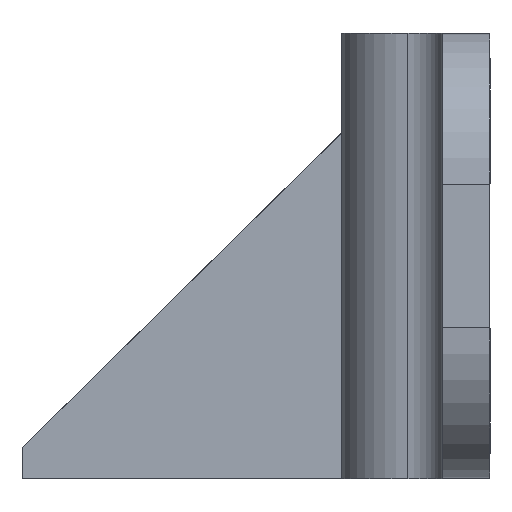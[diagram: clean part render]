
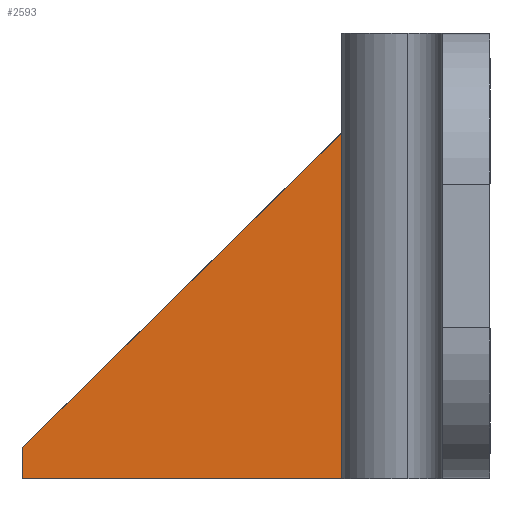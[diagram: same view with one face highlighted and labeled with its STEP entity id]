
A CAD part, left-side view. The second image highlights one B-rep face of the part: STEP entity #2593.
In plain terms, the highlighted planar face has unit normal (-1, 0, 0).
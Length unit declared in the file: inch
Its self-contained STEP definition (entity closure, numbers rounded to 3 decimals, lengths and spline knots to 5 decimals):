
#234 = ORIENTED_EDGE ( 'NONE', *, *, #1875, .F. ) ;
#431 = CARTESIAN_POINT ( 'NONE',  ( -1., 0.09375, 1.77166 ) ) ;
#550 = CARTESIAN_POINT ( 'NONE',  ( -1., 0.24375, 1.77166 ) ) ;
#593 = CARTESIAN_POINT ( 'NONE',  ( -1., 1.76675, 0. ) ) ;
#678 = LINE ( 'NONE', #593, #2239 ) ;
#746 = DIRECTION ( 'NONE',  ( 0., -0.713, 0.701 ) ) ;
#757 = CARTESIAN_POINT ( 'NONE',  ( -1., 1.76675, 1.77166 ) ) ;
#922 = DIRECTION ( 'NONE',  ( 0., -1., 0. ) ) ;
#975 = VECTOR ( 'NONE', #2766, 39.37008 ) ;
#1203 = VERTEX_POINT ( 'NONE', #4056 ) ;
#1209 = ORIENTED_EDGE ( 'NONE', *, *, #3193, .T. ) ;
#1302 = VECTOR ( 'NONE', #2989, 39.37008 ) ;
#1391 = LINE ( 'NONE', #757, #1302 ) ;
#1435 = CARTESIAN_POINT ( 'NONE',  ( -1., 1.76675, 1.77166 ) ) ;
#1543 = EDGE_LOOP ( 'NONE', ( #3367, #3036, #234, #1209 ) ) ;
#1739 = DIRECTION ( 'NONE',  ( 0., 1., 0. ) ) ;
#1875 = EDGE_CURVE ( 'NONE', #2809, #1203, #3412, .T. ) ;
#2079 = EDGE_CURVE ( 'NONE', #3804, #1203, #3614, .T. ) ;
#2096 = CARTESIAN_POINT ( 'NONE',  ( -1., 1.76675, 0.125 ) ) ;
#2239 = VECTOR ( 'NONE', #922, 39.37008 ) ;
#2554 = VECTOR ( 'NONE', #746, 39.37008 ) ;
#2593 = ADVANCED_FACE ( 'NONE', ( #2649 ), #2712, .F. ) ;
#2649 = FACE_OUTER_BOUND ( 'NONE', #1543, .T. ) ;
#2669 = CARTESIAN_POINT ( 'NONE',  ( -1., 0.24375, 0. ) ) ;
#2712 = PLANE ( 'NONE',  #3101 ) ;
#2766 = DIRECTION ( 'NONE',  ( 0., 0., 1. ) ) ;
#2809 = VERTEX_POINT ( 'NONE', #2096 ) ;
#2989 = DIRECTION ( 'NONE',  ( 0., 0., -1. ) ) ;
#3036 = ORIENTED_EDGE ( 'NONE', *, *, #2079, .T. ) ;
#3101 = AXIS2_PLACEMENT_3D ( 'NONE', #1435, #3681, #1739 ) ;
#3193 = EDGE_CURVE ( 'NONE', #2809, #3827, #1391, .T. ) ;
#3335 = CARTESIAN_POINT ( 'NONE',  ( -1., 1.76675, 0. ) ) ;
#3367 = ORIENTED_EDGE ( 'NONE', *, *, #3507, .T. ) ;
#3412 = LINE ( 'NONE', #431, #2554 ) ;
#3507 = EDGE_CURVE ( 'NONE', #3827, #3804, #678, .T. ) ;
#3614 = LINE ( 'NONE', #550, #975 ) ;
#3681 = DIRECTION ( 'NONE',  ( 1., 0., 0. ) ) ;
#3804 = VERTEX_POINT ( 'NONE', #2669 ) ;
#3827 = VERTEX_POINT ( 'NONE', #3335 ) ;
#4056 = CARTESIAN_POINT ( 'NONE',  ( -1., 0.24375, 1.62402 ) ) ;
